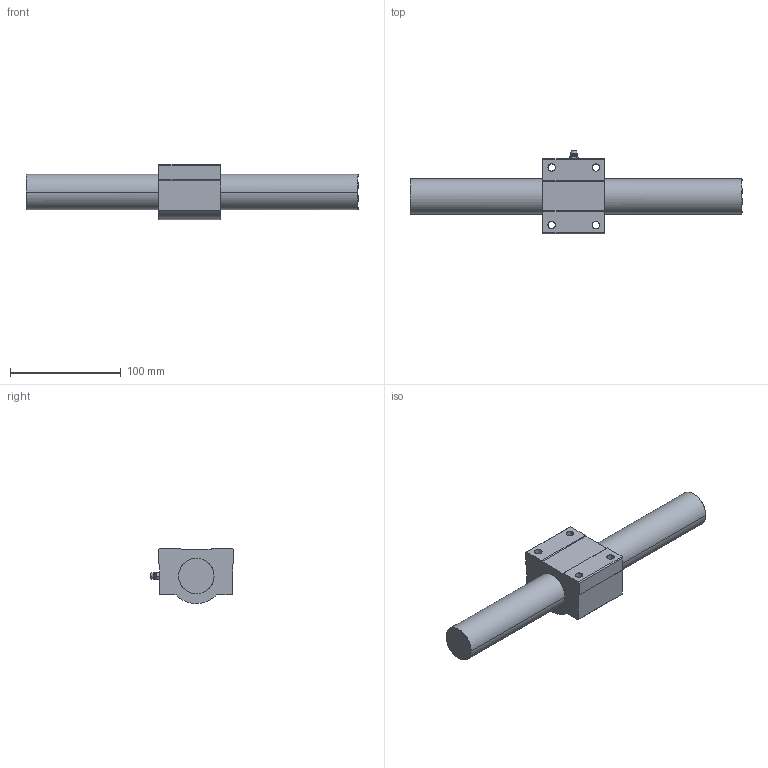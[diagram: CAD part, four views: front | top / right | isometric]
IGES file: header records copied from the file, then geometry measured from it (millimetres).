
Global section: file name: No Iges File Name specified; native system: AutoDesk Inventor R10; preprocessor: AutoDesk Inventor Iges Exporter R10; author: No Author specified; organization: No Organization specified; date: 20101224.145759; units: millimetre
Bounding box: 300 x 75.8 x 50 mm (x, y, z)
Surface area: 57580.9 mm2 (no closed solid volume)
Topology: 0 solids, 0 shells, 78 faces, 474 edges, 470 vertices
Faces by surface type: bspline 78
